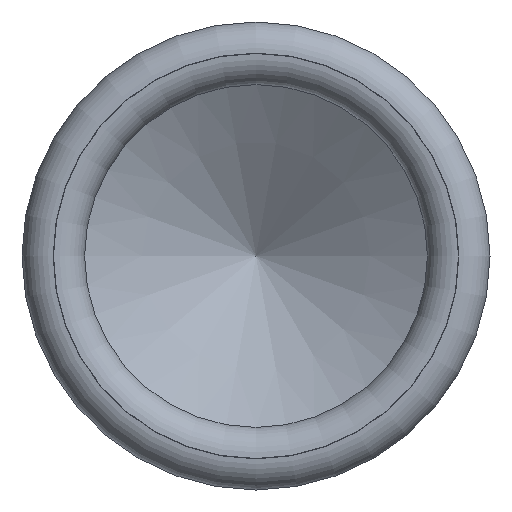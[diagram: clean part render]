
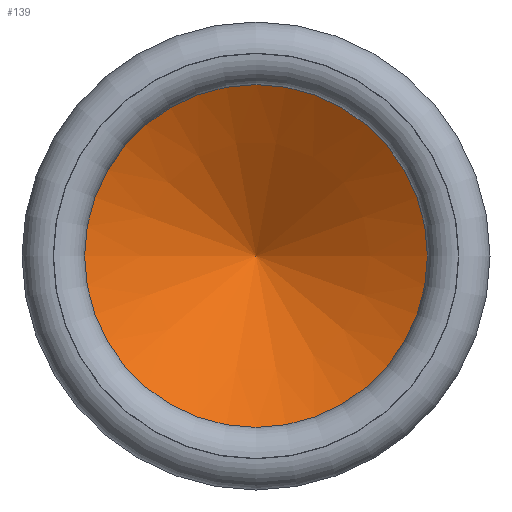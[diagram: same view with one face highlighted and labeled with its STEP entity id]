
A CAD part, left-side view. The second image highlights one B-rep face of the part: STEP entity #139.
In plain terms, the highlighted conical face has half-angle 59 degrees and reference radius 0.66 mm.
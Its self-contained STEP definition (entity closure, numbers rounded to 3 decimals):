
#13=CONICAL_SURFACE($,#161,0.66,59.);
#41=FACE_OUTER_BOUND($,#58,.T.);
#58=EDGE_LOOP($,(#118));
#75=CIRCLE($,#156,1.321);
#87=VERTEX_POINT($,#237);
#99=EDGE_CURVE($,#87,#87,#75,.T.);
#118=ORIENTED_EDGE($,*,*,#99,.T.);
#139=ADVANCED_FACE($,(#41),#13,.F.);
#156=AXIS2_PLACEMENT_3D($,#238,#189,#190);
#161=AXIS2_PLACEMENT_3D($,#245,#199,#200);
#189=DIRECTION('center_axis',(-1.,0.,0.));
#190=DIRECTION('ref_axis',(0.,-1.,0.));
#199=DIRECTION('center_axis',(-1.,0.,0.));
#200=DIRECTION('ref_axis',(0.,-1.,0.));
#237=CARTESIAN_POINT('',(9.652,-1.321,0.));
#238=CARTESIAN_POINT('Origin',(9.652,0.,0.));
#245=CARTESIAN_POINT('Origin',(10.049,0.,0.));
